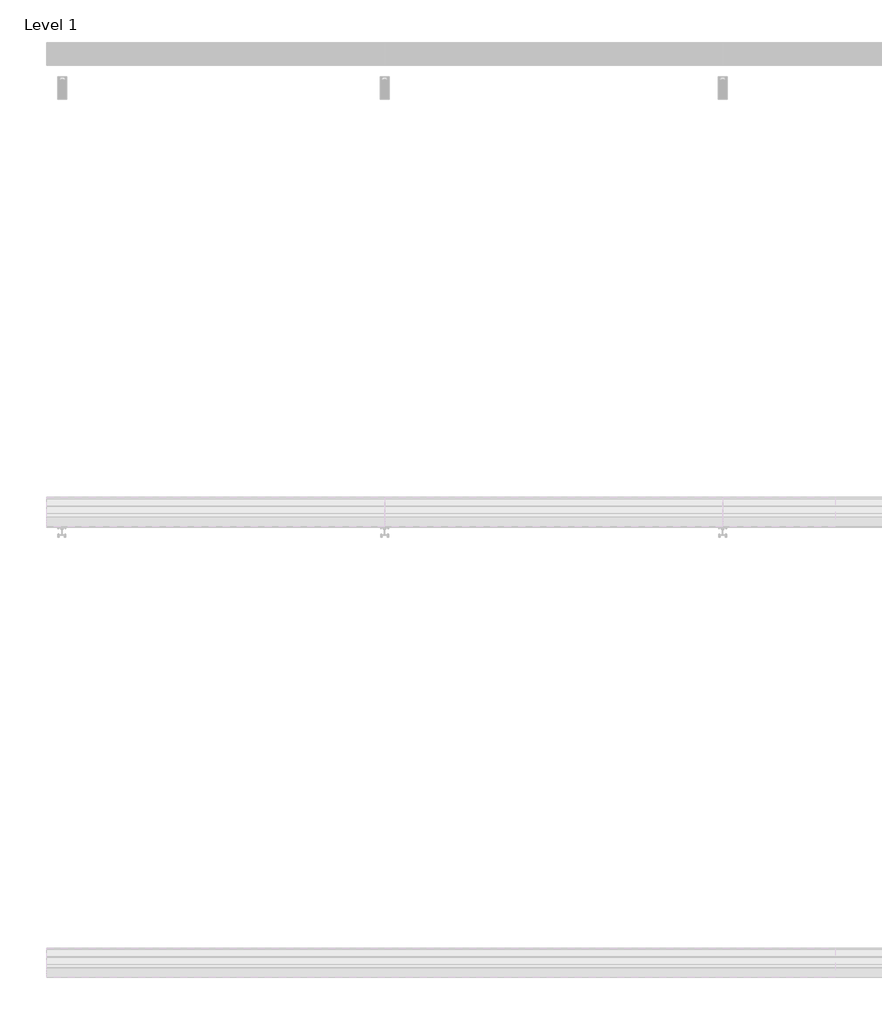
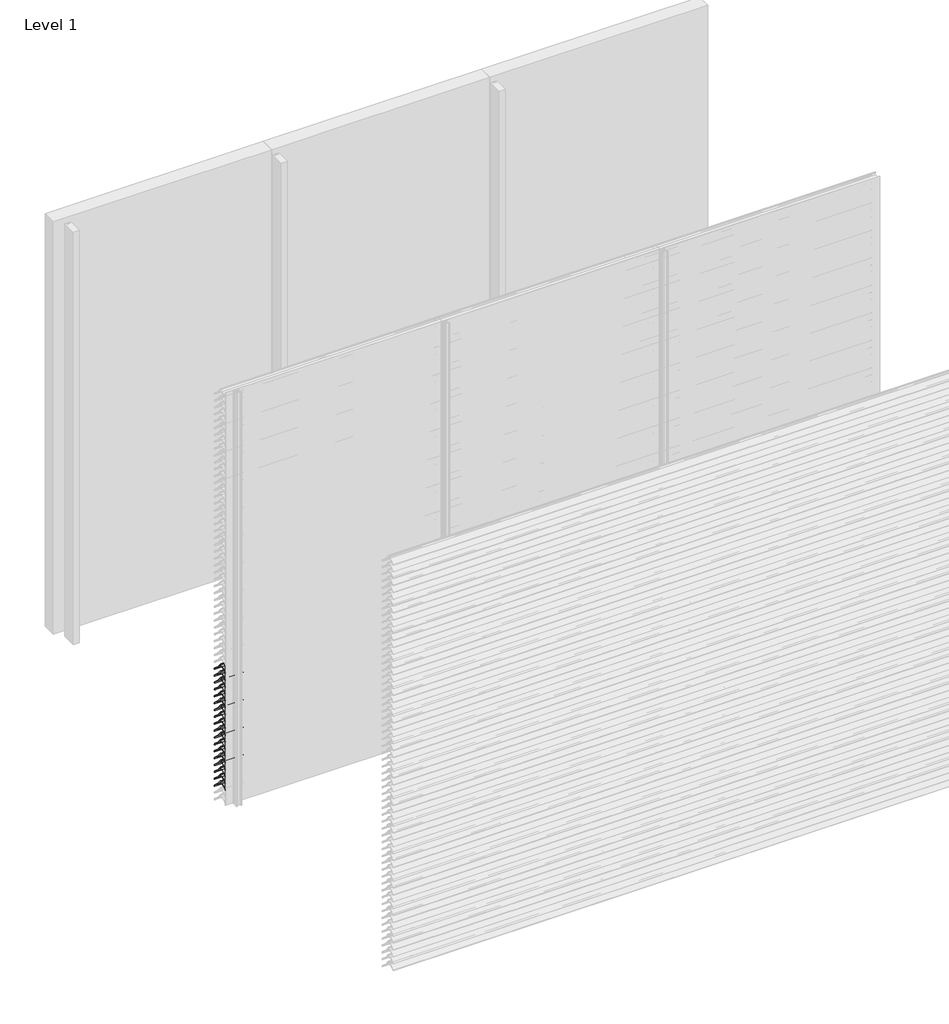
# One storey, part 43 of 173: 18 proxies.
"""IFC4 building model written with IfcOpenShell, lengths in millimetres."""

from ifc_helpers import new_model, si_unit, point, frame, frame_2d, origin, place, context, project, spatial, polyline, circle_curve, trimmed, segment, composite_curve, outline, extrude, element, save

model = new_model("IFC4")

# Units and contexts
model_context = context("Model", 3, world=origin())
ifc_project = project(units=[si_unit("LENGTHUNIT", "METRE", prefix="MILLI")], contexts=[model_context])

# Site, building, storey
site = spatial("IfcSite", under=ifc_project)
building = spatial("IfcBuilding", under=site)
storey = spatial("IfcBuildingStorey", under=building, Name="Level 1", Elevation=0.0)

# Proxies
placement = place(None, origin())
element("IfcBuildingElementProxy", 1, Name="Wall Sweeps", at=placement, inside=storey, context=model_context, shape_type="SweptSolid", body=[
    extrude(outline(composite_curve([segment(polyline([(-41998.0, 959.1474905), (-41998.0, 961.6227417)]), True, "CONTINUOUS"), segment(trimmed(circle_curve(frame_2d((-41951.2682172, 916.2200208)), 65.1557103), [point((-41998.0, 961.6227417))], [point((-41954.4014323, 981.3003524))], False, "CARTESIAN"), True, "CONTINUOUS"), segment(polyline([(-41954.4014323, 981.3003524), (-41934.8315836, 981.3003524)]), True, "CONTINUOUS"), segment(trimmed(circle_curve(frame_2d((-41732.7329489, 1128.5533172)), 250.0545817), [point((-41934.8315836, 981.3003524))], [point((-41941.4452143, 990.8344583))], False, "CARTESIAN"), True, "CONTINUOUS"), segment(trimmed(circle_curve(frame_2d((-41953.2981792, 985.1737835)), 13.1352966), [point((-41941.4452143, 990.8344583))], [point((-41953.8171475, 998.298824))], True, "CARTESIAN"), True, "CONTINUOUS"), segment(polyline([(-41953.8171475, 998.298824), (-41953.8171475, 1000.0)]), True, "CONTINUOUS"), segment(trimmed(circle_curve(frame_2d((-41953.2981792, 985.1737835)), 14.8352966), [point((-41953.8171475, 1000.0))], [point((-41939.9637661, 991.6760487))], False, "CARTESIAN"), True, "CONTINUOUS"), segment(trimmed(circle_curve(frame_2d((-41732.7329489, 1128.5533172)), 248.3545817), [point((-41939.9637661, 991.6760487))], [point((-41873.8787895, 924.2059416))], True, "CARTESIAN"), True, "CONTINUOUS"), segment(trimmed(circle_curve(frame_2d((-41883.8147537, 911.6649442)), 16.0), [point((-41873.8787895, 924.2059416))], [point((-41867.8648347, 910.4))], False, "CARTESIAN"), True, "CONTINUOUS"), segment(polyline([(-41867.8648347, 910.4), (-41869.6712069, 910.4)]), True, "CONTINUOUS"), segment(trimmed(circle_curve(frame_2d((-41883.8147537, 911.6649442)), 14.2), [point((-41869.6712069, 910.4))], [point((-41874.9518628, 922.7594998))], True, "CARTESIAN"), True, "CONTINUOUS"), segment(trimmed(circle_curve(frame_2d((-41732.7329489, 1128.5533172)), 250.1545817), [point((-41874.9518628, 922.7594998))], [point((-41933.7064024, 979.6003524))], False, "CARTESIAN"), True, "CONTINUOUS"), segment(polyline([(-41933.7064024, 979.6003524), (-41954.3602632, 979.6003524)]), True, "CONTINUOUS"), segment(trimmed(circle_curve(frame_2d((-41951.2682172, 916.2200208)), 63.4557103), [point((-41954.3602632, 979.6003524))], [point((-41998.0, 959.1474905))], True, "CARTESIAN"), True, "CONTINUOUS")], self_intersect=False)), frame((0.0, 0.0, 0.0), z_axis=(1.0, 0.0, 0.0), x_axis=(0.0, 1.0, 0.0)), (0.0, 0.0, 1.0), 1500.0),
])
element("IfcBuildingElementProxy", 2, Name="Wall Sweeps", at=placement, inside=storey, context=model_context, shape_type="SweptSolid", body=[
    extrude(outline(composite_curve([segment(polyline([(-41998.0, 909.1474905), (-41998.0, 911.6227417)]), True, "CONTINUOUS"), segment(trimmed(circle_curve(frame_2d((-41951.2682172, 866.2200208)), 65.1557103), [point((-41998.0, 911.6227417))], [point((-41954.4014323, 931.3003524))], False, "CARTESIAN"), True, "CONTINUOUS"), segment(polyline([(-41954.4014323, 931.3003524), (-41934.8315836, 931.3003524)]), True, "CONTINUOUS"), segment(trimmed(circle_curve(frame_2d((-41732.7329489, 1078.5533172)), 250.0545817), [point((-41934.8315836, 931.3003524))], [point((-41941.4452143, 940.8344583))], False, "CARTESIAN"), True, "CONTINUOUS"), segment(trimmed(circle_curve(frame_2d((-41953.2981792, 935.1737835)), 13.1352966), [point((-41941.4452143, 940.8344583))], [point((-41953.8171475, 948.298824))], True, "CARTESIAN"), True, "CONTINUOUS"), segment(polyline([(-41953.8171475, 948.298824), (-41953.8171475, 950.0)]), True, "CONTINUOUS"), segment(trimmed(circle_curve(frame_2d((-41953.2981792, 935.1737835)), 14.8352966), [point((-41953.8171475, 950.0))], [point((-41939.9637661, 941.6760487))], False, "CARTESIAN"), True, "CONTINUOUS"), segment(trimmed(circle_curve(frame_2d((-41732.7329489, 1078.5533172)), 248.3545817), [point((-41939.9637661, 941.6760487))], [point((-41873.8787895, 874.2059416))], True, "CARTESIAN"), True, "CONTINUOUS"), segment(trimmed(circle_curve(frame_2d((-41883.8147537, 861.6649442)), 16.0), [point((-41873.8787895, 874.2059416))], [point((-41867.8648347, 860.4))], False, "CARTESIAN"), True, "CONTINUOUS"), segment(polyline([(-41867.8648347, 860.4), (-41869.6712069, 860.4)]), True, "CONTINUOUS"), segment(trimmed(circle_curve(frame_2d((-41883.8147537, 861.6649442)), 14.2), [point((-41869.6712069, 860.4))], [point((-41874.9518628, 872.7594998))], True, "CARTESIAN"), True, "CONTINUOUS"), segment(trimmed(circle_curve(frame_2d((-41732.7329489, 1078.5533172)), 250.1545817), [point((-41874.9518628, 872.7594998))], [point((-41933.7064024, 929.6003524))], False, "CARTESIAN"), True, "CONTINUOUS"), segment(polyline([(-41933.7064024, 929.6003524), (-41954.3602632, 929.6003524)]), True, "CONTINUOUS"), segment(trimmed(circle_curve(frame_2d((-41951.2682172, 866.2200208)), 63.4557103), [point((-41954.3602632, 929.6003524))], [point((-41998.0, 909.1474905))], True, "CARTESIAN"), True, "CONTINUOUS")], self_intersect=False)), frame((0.0, 0.0, 0.0), z_axis=(1.0, 0.0, 0.0), x_axis=(0.0, 1.0, 0.0)), (0.0, 0.0, 1.0), 1500.0),
])
element("IfcBuildingElementProxy", 3, Name="Wall Sweeps", at=placement, inside=storey, context=model_context, shape_type="SweptSolid", body=[
    extrude(outline(composite_curve([segment(polyline([(-41998.0, 859.1474905), (-41998.0, 861.6227417)]), True, "CONTINUOUS"), segment(trimmed(circle_curve(frame_2d((-41951.2682172, 816.2200208)), 65.1557103), [point((-41998.0, 861.6227417))], [point((-41954.4014323, 881.3003524))], False, "CARTESIAN"), True, "CONTINUOUS"), segment(polyline([(-41954.4014323, 881.3003524), (-41934.8315836, 881.3003524)]), True, "CONTINUOUS"), segment(trimmed(circle_curve(frame_2d((-41732.7329489, 1028.5533172)), 250.0545817), [point((-41934.8315836, 881.3003524))], [point((-41941.4452143, 890.8344583))], False, "CARTESIAN"), True, "CONTINUOUS"), segment(trimmed(circle_curve(frame_2d((-41953.2981792, 885.1737835)), 13.1352966), [point((-41941.4452143, 890.8344583))], [point((-41953.8171475, 898.298824))], True, "CARTESIAN"), True, "CONTINUOUS"), segment(polyline([(-41953.8171475, 898.298824), (-41953.8171475, 900.0)]), True, "CONTINUOUS"), segment(trimmed(circle_curve(frame_2d((-41953.2981792, 885.1737835)), 14.8352966), [point((-41953.8171475, 900.0))], [point((-41939.9637661, 891.6760487))], False, "CARTESIAN"), True, "CONTINUOUS"), segment(trimmed(circle_curve(frame_2d((-41732.7329489, 1028.5533172)), 248.3545817), [point((-41939.9637661, 891.6760487))], [point((-41873.8787895, 824.2059416))], True, "CARTESIAN"), True, "CONTINUOUS"), segment(trimmed(circle_curve(frame_2d((-41883.8147537, 811.6649442)), 16.0), [point((-41873.8787895, 824.2059416))], [point((-41867.8648347, 810.4))], False, "CARTESIAN"), True, "CONTINUOUS"), segment(polyline([(-41867.8648347, 810.4), (-41869.6712069, 810.4)]), True, "CONTINUOUS"), segment(trimmed(circle_curve(frame_2d((-41883.8147537, 811.6649442)), 14.2), [point((-41869.6712069, 810.4))], [point((-41874.9518628, 822.7594998))], True, "CARTESIAN"), True, "CONTINUOUS"), segment(trimmed(circle_curve(frame_2d((-41732.7329489, 1028.5533172)), 250.1545817), [point((-41874.9518628, 822.7594998))], [point((-41933.7064024, 879.6003524))], False, "CARTESIAN"), True, "CONTINUOUS"), segment(polyline([(-41933.7064024, 879.6003524), (-41954.3602632, 879.6003524)]), True, "CONTINUOUS"), segment(trimmed(circle_curve(frame_2d((-41951.2682172, 816.2200208)), 63.4557103), [point((-41954.3602632, 879.6003524))], [point((-41998.0, 859.1474905))], True, "CARTESIAN"), True, "CONTINUOUS")], self_intersect=False)), frame((0.0, 0.0, 0.0), z_axis=(1.0, 0.0, 0.0), x_axis=(0.0, 1.0, 0.0)), (0.0, 0.0, 1.0), 1500.0),
])
element("IfcBuildingElementProxy", 4, Name="Wall Sweeps", at=placement, inside=storey, context=model_context, shape_type="SweptSolid", body=[
    extrude(outline(composite_curve([segment(polyline([(-41998.0, 809.1474905), (-41998.0, 811.6227417)]), True, "CONTINUOUS"), segment(trimmed(circle_curve(frame_2d((-41951.2682172, 766.2200208)), 65.1557103), [point((-41998.0, 811.6227417))], [point((-41954.4014323, 831.3003524))], False, "CARTESIAN"), True, "CONTINUOUS"), segment(polyline([(-41954.4014323, 831.3003524), (-41934.8315836, 831.3003524)]), True, "CONTINUOUS"), segment(trimmed(circle_curve(frame_2d((-41732.7329489, 978.5533172)), 250.0545817), [point((-41934.8315836, 831.3003524))], [point((-41941.4452143, 840.8344583))], False, "CARTESIAN"), True, "CONTINUOUS"), segment(trimmed(circle_curve(frame_2d((-41953.2981792, 835.1737835)), 13.1352966), [point((-41941.4452143, 840.8344583))], [point((-41953.8171475, 848.298824))], True, "CARTESIAN"), True, "CONTINUOUS"), segment(polyline([(-41953.8171475, 848.298824), (-41953.8171475, 850.0)]), True, "CONTINUOUS"), segment(trimmed(circle_curve(frame_2d((-41953.2981792, 835.1737835)), 14.8352966), [point((-41953.8171475, 850.0))], [point((-41939.9637661, 841.6760487))], False, "CARTESIAN"), True, "CONTINUOUS"), segment(trimmed(circle_curve(frame_2d((-41732.7329489, 978.5533172)), 248.3545817), [point((-41939.9637661, 841.6760487))], [point((-41873.8787895, 774.2059416))], True, "CARTESIAN"), True, "CONTINUOUS"), segment(trimmed(circle_curve(frame_2d((-41883.8147537, 761.6649442)), 16.0), [point((-41873.8787895, 774.2059416))], [point((-41867.8648347, 760.4))], False, "CARTESIAN"), True, "CONTINUOUS"), segment(polyline([(-41867.8648347, 760.4), (-41869.6712069, 760.4)]), True, "CONTINUOUS"), segment(trimmed(circle_curve(frame_2d((-41883.8147537, 761.6649442)), 14.2), [point((-41869.6712069, 760.4))], [point((-41874.9518628, 772.7594998))], True, "CARTESIAN"), True, "CONTINUOUS"), segment(trimmed(circle_curve(frame_2d((-41732.7329489, 978.5533172)), 250.1545817), [point((-41874.9518628, 772.7594998))], [point((-41933.7064024, 829.6003524))], False, "CARTESIAN"), True, "CONTINUOUS"), segment(polyline([(-41933.7064024, 829.6003524), (-41954.3602632, 829.6003524)]), True, "CONTINUOUS"), segment(trimmed(circle_curve(frame_2d((-41951.2682172, 766.2200208)), 63.4557103), [point((-41954.3602632, 829.6003524))], [point((-41998.0, 809.1474905))], True, "CARTESIAN"), True, "CONTINUOUS")], self_intersect=False)), frame((0.0, 0.0, 0.0), z_axis=(1.0, 0.0, 0.0), x_axis=(0.0, 1.0, 0.0)), (0.0, 0.0, 1.0), 1500.0),
])
element("IfcBuildingElementProxy", 5, Name="Wall Sweeps", at=placement, inside=storey, context=model_context, shape_type="SweptSolid", body=[
    extrude(outline(composite_curve([segment(polyline([(-41998.0, 759.1474905), (-41998.0, 761.6227417)]), True, "CONTINUOUS"), segment(trimmed(circle_curve(frame_2d((-41951.2682172, 716.2200208)), 65.1557103), [point((-41998.0, 761.6227417))], [point((-41954.4014323, 781.3003524))], False, "CARTESIAN"), True, "CONTINUOUS"), segment(polyline([(-41954.4014323, 781.3003524), (-41934.8315836, 781.3003524)]), True, "CONTINUOUS"), segment(trimmed(circle_curve(frame_2d((-41732.7329489, 928.5533172)), 250.0545817), [point((-41934.8315836, 781.3003524))], [point((-41941.4452143, 790.8344583))], False, "CARTESIAN"), True, "CONTINUOUS"), segment(trimmed(circle_curve(frame_2d((-41953.2981792, 785.1737835)), 13.1352966), [point((-41941.4452143, 790.8344583))], [point((-41953.8171475, 798.298824))], True, "CARTESIAN"), True, "CONTINUOUS"), segment(polyline([(-41953.8171475, 798.298824), (-41953.8171475, 800.0)]), True, "CONTINUOUS"), segment(trimmed(circle_curve(frame_2d((-41953.2981792, 785.1737835)), 14.8352966), [point((-41953.8171475, 800.0))], [point((-41939.9637661, 791.6760487))], False, "CARTESIAN"), True, "CONTINUOUS"), segment(trimmed(circle_curve(frame_2d((-41732.7329489, 928.5533172)), 248.3545817), [point((-41939.9637661, 791.6760487))], [point((-41873.8787895, 724.2059416))], True, "CARTESIAN"), True, "CONTINUOUS"), segment(trimmed(circle_curve(frame_2d((-41883.8147537, 711.6649442)), 16.0), [point((-41873.8787895, 724.2059416))], [point((-41867.8648347, 710.4))], False, "CARTESIAN"), True, "CONTINUOUS"), segment(polyline([(-41867.8648347, 710.4), (-41869.6712069, 710.4)]), True, "CONTINUOUS"), segment(trimmed(circle_curve(frame_2d((-41883.8147537, 711.6649442)), 14.2), [point((-41869.6712069, 710.4))], [point((-41874.9518628, 722.7594998))], True, "CARTESIAN"), True, "CONTINUOUS"), segment(trimmed(circle_curve(frame_2d((-41732.7329489, 928.5533172)), 250.1545817), [point((-41874.9518628, 722.7594998))], [point((-41933.7064024, 779.6003524))], False, "CARTESIAN"), True, "CONTINUOUS"), segment(polyline([(-41933.7064024, 779.6003524), (-41954.3602632, 779.6003524)]), True, "CONTINUOUS"), segment(trimmed(circle_curve(frame_2d((-41951.2682172, 716.2200208)), 63.4557103), [point((-41954.3602632, 779.6003524))], [point((-41998.0, 759.1474905))], True, "CARTESIAN"), True, "CONTINUOUS")], self_intersect=False)), frame((0.0, 0.0, 0.0), z_axis=(1.0, 0.0, 0.0), x_axis=(0.0, 1.0, 0.0)), (0.0, 0.0, 1.0), 1500.0),
])
element("IfcBuildingElementProxy", 6, Name="Wall Sweeps", at=placement, inside=storey, context=model_context, shape_type="SweptSolid", body=[
    extrude(outline(composite_curve([segment(polyline([(-41998.0, 709.1474905), (-41998.0, 711.6227417)]), True, "CONTINUOUS"), segment(trimmed(circle_curve(frame_2d((-41951.2682172, 666.2200208)), 65.1557103), [point((-41998.0, 711.6227417))], [point((-41954.4014323, 731.3003524))], False, "CARTESIAN"), True, "CONTINUOUS"), segment(polyline([(-41954.4014323, 731.3003524), (-41934.8315836, 731.3003524)]), True, "CONTINUOUS"), segment(trimmed(circle_curve(frame_2d((-41732.7329489, 878.5533172)), 250.0545817), [point((-41934.8315836, 731.3003524))], [point((-41941.4452143, 740.8344583))], False, "CARTESIAN"), True, "CONTINUOUS"), segment(trimmed(circle_curve(frame_2d((-41953.2981792, 735.1737835)), 13.1352966), [point((-41941.4452143, 740.8344583))], [point((-41953.8171475, 748.298824))], True, "CARTESIAN"), True, "CONTINUOUS"), segment(polyline([(-41953.8171475, 748.298824), (-41953.8171475, 750.0)]), True, "CONTINUOUS"), segment(trimmed(circle_curve(frame_2d((-41953.2981792, 735.1737835)), 14.8352966), [point((-41953.8171475, 750.0))], [point((-41939.9637661, 741.6760487))], False, "CARTESIAN"), True, "CONTINUOUS"), segment(trimmed(circle_curve(frame_2d((-41732.7329489, 878.5533172)), 248.3545817), [point((-41939.9637661, 741.6760487))], [point((-41873.8787895, 674.2059416))], True, "CARTESIAN"), True, "CONTINUOUS"), segment(trimmed(circle_curve(frame_2d((-41883.8147537, 661.6649442)), 16.0), [point((-41873.8787895, 674.2059416))], [point((-41867.8648347, 660.4))], False, "CARTESIAN"), True, "CONTINUOUS"), segment(polyline([(-41867.8648347, 660.4), (-41869.6712069, 660.4)]), True, "CONTINUOUS"), segment(trimmed(circle_curve(frame_2d((-41883.8147537, 661.6649442)), 14.2), [point((-41869.6712069, 660.4))], [point((-41874.9518628, 672.7594998))], True, "CARTESIAN"), True, "CONTINUOUS"), segment(trimmed(circle_curve(frame_2d((-41732.7329489, 878.5533172)), 250.1545817), [point((-41874.9518628, 672.7594998))], [point((-41933.7064024, 729.6003524))], False, "CARTESIAN"), True, "CONTINUOUS"), segment(polyline([(-41933.7064024, 729.6003524), (-41954.3602632, 729.6003524)]), True, "CONTINUOUS"), segment(trimmed(circle_curve(frame_2d((-41951.2682172, 666.2200208)), 63.4557103), [point((-41954.3602632, 729.6003524))], [point((-41998.0, 709.1474905))], True, "CARTESIAN"), True, "CONTINUOUS")], self_intersect=False)), frame((0.0, 0.0, 0.0), z_axis=(1.0, 0.0, 0.0), x_axis=(0.0, 1.0, 0.0)), (0.0, 0.0, 1.0), 1500.0),
])
element("IfcBuildingElementProxy", 7, Name="Wall Sweeps", at=placement, inside=storey, context=model_context, shape_type="SweptSolid", body=[
    extrude(outline(composite_curve([segment(polyline([(-41998.0, 659.1474905), (-41998.0, 661.6227417)]), True, "CONTINUOUS"), segment(trimmed(circle_curve(frame_2d((-41951.2682172, 616.2200208)), 65.1557103), [point((-41998.0, 661.6227417))], [point((-41954.4014323, 681.3003524))], False, "CARTESIAN"), True, "CONTINUOUS"), segment(polyline([(-41954.4014323, 681.3003524), (-41934.8315836, 681.3003524)]), True, "CONTINUOUS"), segment(trimmed(circle_curve(frame_2d((-41732.7329489, 828.5533172)), 250.0545817), [point((-41934.8315836, 681.3003524))], [point((-41941.4452143, 690.8344583))], False, "CARTESIAN"), True, "CONTINUOUS"), segment(trimmed(circle_curve(frame_2d((-41953.2981792, 685.1737835)), 13.1352966), [point((-41941.4452143, 690.8344583))], [point((-41953.8171475, 698.298824))], True, "CARTESIAN"), True, "CONTINUOUS"), segment(polyline([(-41953.8171475, 698.298824), (-41953.8171475, 700.0)]), True, "CONTINUOUS"), segment(trimmed(circle_curve(frame_2d((-41953.2981792, 685.1737835)), 14.8352966), [point((-41953.8171475, 700.0))], [point((-41939.9637661, 691.6760487))], False, "CARTESIAN"), True, "CONTINUOUS"), segment(trimmed(circle_curve(frame_2d((-41732.7329489, 828.5533172)), 248.3545817), [point((-41939.9637661, 691.6760487))], [point((-41873.8787895, 624.2059416))], True, "CARTESIAN"), True, "CONTINUOUS"), segment(trimmed(circle_curve(frame_2d((-41883.8147537, 611.6649442)), 16.0), [point((-41873.8787895, 624.2059416))], [point((-41867.8648347, 610.4))], False, "CARTESIAN"), True, "CONTINUOUS"), segment(polyline([(-41867.8648347, 610.4), (-41869.6712069, 610.4)]), True, "CONTINUOUS"), segment(trimmed(circle_curve(frame_2d((-41883.8147537, 611.6649442)), 14.2), [point((-41869.6712069, 610.4))], [point((-41874.9518628, 622.7594998))], True, "CARTESIAN"), True, "CONTINUOUS"), segment(trimmed(circle_curve(frame_2d((-41732.7329489, 828.5533172)), 250.1545817), [point((-41874.9518628, 622.7594998))], [point((-41933.7064024, 679.6003524))], False, "CARTESIAN"), True, "CONTINUOUS"), segment(polyline([(-41933.7064024, 679.6003524), (-41954.3602632, 679.6003524)]), True, "CONTINUOUS"), segment(trimmed(circle_curve(frame_2d((-41951.2682172, 616.2200208)), 63.4557103), [point((-41954.3602632, 679.6003524))], [point((-41998.0, 659.1474905))], True, "CARTESIAN"), True, "CONTINUOUS")], self_intersect=False)), frame((0.0, 0.0, 0.0), z_axis=(1.0, 0.0, 0.0), x_axis=(0.0, 1.0, 0.0)), (0.0, 0.0, 1.0), 1500.0),
])
element("IfcBuildingElementProxy", 8, Name="Wall Sweeps", at=placement, inside=storey, context=model_context, shape_type="SweptSolid", body=[
    extrude(outline(composite_curve([segment(polyline([(-41998.0, 609.1474905), (-41998.0, 611.6227417)]), True, "CONTINUOUS"), segment(trimmed(circle_curve(frame_2d((-41951.2682172, 566.2200208)), 65.1557103), [point((-41998.0, 611.6227417))], [point((-41954.4014323, 631.3003524))], False, "CARTESIAN"), True, "CONTINUOUS"), segment(polyline([(-41954.4014323, 631.3003524), (-41934.8315836, 631.3003524)]), True, "CONTINUOUS"), segment(trimmed(circle_curve(frame_2d((-41732.7329489, 778.5533172)), 250.0545817), [point((-41934.8315836, 631.3003524))], [point((-41941.4452143, 640.8344583))], False, "CARTESIAN"), True, "CONTINUOUS"), segment(trimmed(circle_curve(frame_2d((-41953.2981792, 635.1737835)), 13.1352966), [point((-41941.4452143, 640.8344583))], [point((-41953.8171475, 648.298824))], True, "CARTESIAN"), True, "CONTINUOUS"), segment(polyline([(-41953.8171475, 648.298824), (-41953.8171475, 650.0)]), True, "CONTINUOUS"), segment(trimmed(circle_curve(frame_2d((-41953.2981792, 635.1737835)), 14.8352966), [point((-41953.8171475, 650.0))], [point((-41939.9637661, 641.6760487))], False, "CARTESIAN"), True, "CONTINUOUS"), segment(trimmed(circle_curve(frame_2d((-41732.7329489, 778.5533172)), 248.3545817), [point((-41939.9637661, 641.6760487))], [point((-41873.8787895, 574.2059416))], True, "CARTESIAN"), True, "CONTINUOUS"), segment(trimmed(circle_curve(frame_2d((-41883.8147537, 561.6649442)), 16.0), [point((-41873.8787895, 574.2059416))], [point((-41867.8648347, 560.4))], False, "CARTESIAN"), True, "CONTINUOUS"), segment(polyline([(-41867.8648347, 560.4), (-41869.6712069, 560.4)]), True, "CONTINUOUS"), segment(trimmed(circle_curve(frame_2d((-41883.8147537, 561.6649442)), 14.2), [point((-41869.6712069, 560.4))], [point((-41874.9518628, 572.7594998))], True, "CARTESIAN"), True, "CONTINUOUS"), segment(trimmed(circle_curve(frame_2d((-41732.7329489, 778.5533172)), 250.1545817), [point((-41874.9518628, 572.7594998))], [point((-41933.7064024, 629.6003524))], False, "CARTESIAN"), True, "CONTINUOUS"), segment(polyline([(-41933.7064024, 629.6003524), (-41954.3602632, 629.6003524)]), True, "CONTINUOUS"), segment(trimmed(circle_curve(frame_2d((-41951.2682172, 566.2200208)), 63.4557103), [point((-41954.3602632, 629.6003524))], [point((-41998.0, 609.1474905))], True, "CARTESIAN"), True, "CONTINUOUS")], self_intersect=False)), frame((0.0, 0.0, 0.0), z_axis=(1.0, 0.0, 0.0), x_axis=(0.0, 1.0, 0.0)), (0.0, 0.0, 1.0), 1500.0),
])
element("IfcBuildingElementProxy", 9, Name="Wall Sweeps", at=placement, inside=storey, context=model_context, shape_type="SweptSolid", body=[
    extrude(outline(composite_curve([segment(polyline([(-41998.0, 559.1474905), (-41998.0, 561.6227417)]), True, "CONTINUOUS"), segment(trimmed(circle_curve(frame_2d((-41951.2682172, 516.2200208)), 65.1557103), [point((-41998.0, 561.6227417))], [point((-41954.4014323, 581.3003524))], False, "CARTESIAN"), True, "CONTINUOUS"), segment(polyline([(-41954.4014323, 581.3003524), (-41934.8315836, 581.3003524)]), True, "CONTINUOUS"), segment(trimmed(circle_curve(frame_2d((-41732.7329489, 728.5533172)), 250.0545817), [point((-41934.8315836, 581.3003524))], [point((-41941.4452143, 590.8344583))], False, "CARTESIAN"), True, "CONTINUOUS"), segment(trimmed(circle_curve(frame_2d((-41953.2981792, 585.1737835)), 13.1352966), [point((-41941.4452143, 590.8344583))], [point((-41953.8171475, 598.298824))], True, "CARTESIAN"), True, "CONTINUOUS"), segment(polyline([(-41953.8171475, 598.298824), (-41953.8171475, 600.0)]), True, "CONTINUOUS"), segment(trimmed(circle_curve(frame_2d((-41953.2981792, 585.1737835)), 14.8352966), [point((-41953.8171475, 600.0))], [point((-41939.9637661, 591.6760487))], False, "CARTESIAN"), True, "CONTINUOUS"), segment(trimmed(circle_curve(frame_2d((-41732.7329489, 728.5533172)), 248.3545817), [point((-41939.9637661, 591.6760487))], [point((-41873.8787895, 524.2059416))], True, "CARTESIAN"), True, "CONTINUOUS"), segment(trimmed(circle_curve(frame_2d((-41883.8147537, 511.6649442)), 16.0), [point((-41873.8787895, 524.2059416))], [point((-41867.8648347, 510.4))], False, "CARTESIAN"), True, "CONTINUOUS"), segment(polyline([(-41867.8648347, 510.4), (-41869.6712069, 510.4)]), True, "CONTINUOUS"), segment(trimmed(circle_curve(frame_2d((-41883.8147537, 511.6649442)), 14.2), [point((-41869.6712069, 510.4))], [point((-41874.9518628, 522.7594998))], True, "CARTESIAN"), True, "CONTINUOUS"), segment(trimmed(circle_curve(frame_2d((-41732.7329489, 728.5533172)), 250.1545817), [point((-41874.9518628, 522.7594998))], [point((-41933.7064024, 579.6003524))], False, "CARTESIAN"), True, "CONTINUOUS"), segment(polyline([(-41933.7064024, 579.6003524), (-41954.3602632, 579.6003524)]), True, "CONTINUOUS"), segment(trimmed(circle_curve(frame_2d((-41951.2682172, 516.2200208)), 63.4557103), [point((-41954.3602632, 579.6003524))], [point((-41998.0, 559.1474905))], True, "CARTESIAN"), True, "CONTINUOUS")], self_intersect=False)), frame((0.0, 0.0, 0.0), z_axis=(1.0, 0.0, 0.0), x_axis=(0.0, 1.0, 0.0)), (0.0, 0.0, 1.0), 1500.0),
])
element("IfcBuildingElementProxy", 10, Name="Wall Sweeps", at=placement, inside=storey, context=model_context, shape_type="SweptSolid", body=[
    extrude(outline(composite_curve([segment(polyline([(-41998.0, 509.1474905), (-41998.0, 511.6227417)]), True, "CONTINUOUS"), segment(trimmed(circle_curve(frame_2d((-41951.2682172, 466.2200208)), 65.1557103), [point((-41998.0, 511.6227417))], [point((-41954.4014323, 531.3003524))], False, "CARTESIAN"), True, "CONTINUOUS"), segment(polyline([(-41954.4014323, 531.3003524), (-41934.8315836, 531.3003524)]), True, "CONTINUOUS"), segment(trimmed(circle_curve(frame_2d((-41732.7329489, 678.5533172)), 250.0545817), [point((-41934.8315836, 531.3003524))], [point((-41941.4452143, 540.8344583))], False, "CARTESIAN"), True, "CONTINUOUS"), segment(trimmed(circle_curve(frame_2d((-41953.2981792, 535.1737835)), 13.1352966), [point((-41941.4452143, 540.8344583))], [point((-41953.8171475, 548.298824))], True, "CARTESIAN"), True, "CONTINUOUS"), segment(polyline([(-41953.8171475, 548.298824), (-41953.8171475, 550.0)]), True, "CONTINUOUS"), segment(trimmed(circle_curve(frame_2d((-41953.2981792, 535.1737835)), 14.8352966), [point((-41953.8171475, 550.0))], [point((-41939.9637661, 541.6760487))], False, "CARTESIAN"), True, "CONTINUOUS"), segment(trimmed(circle_curve(frame_2d((-41732.7329489, 678.5533172)), 248.3545817), [point((-41939.9637661, 541.6760487))], [point((-41873.8787895, 474.2059416))], True, "CARTESIAN"), True, "CONTINUOUS"), segment(trimmed(circle_curve(frame_2d((-41883.8147537, 461.6649442)), 16.0), [point((-41873.8787895, 474.2059416))], [point((-41867.8648347, 460.4))], False, "CARTESIAN"), True, "CONTINUOUS"), segment(polyline([(-41867.8648347, 460.4), (-41869.6712069, 460.4)]), True, "CONTINUOUS"), segment(trimmed(circle_curve(frame_2d((-41883.8147537, 461.6649442)), 14.2), [point((-41869.6712069, 460.4))], [point((-41874.9518628, 472.7594998))], True, "CARTESIAN"), True, "CONTINUOUS"), segment(trimmed(circle_curve(frame_2d((-41732.7329489, 678.5533172)), 250.1545817), [point((-41874.9518628, 472.7594998))], [point((-41933.7064024, 529.6003524))], False, "CARTESIAN"), True, "CONTINUOUS"), segment(polyline([(-41933.7064024, 529.6003524), (-41954.3602632, 529.6003524)]), True, "CONTINUOUS"), segment(trimmed(circle_curve(frame_2d((-41951.2682172, 466.2200208)), 63.4557103), [point((-41954.3602632, 529.6003524))], [point((-41998.0, 509.1474905))], True, "CARTESIAN"), True, "CONTINUOUS")], self_intersect=False)), frame((0.0, 0.0, 0.0), z_axis=(1.0, 0.0, 0.0), x_axis=(0.0, 1.0, 0.0)), (0.0, 0.0, 1.0), 1500.0),
])
element("IfcBuildingElementProxy", 11, Name="Wall Sweeps", at=placement, inside=storey, context=model_context, shape_type="SweptSolid", body=[
    extrude(outline(composite_curve([segment(polyline([(-41998.0, 459.1474905), (-41998.0, 461.6227417)]), True, "CONTINUOUS"), segment(trimmed(circle_curve(frame_2d((-41951.2682172, 416.2200208)), 65.1557103), [point((-41998.0, 461.6227417))], [point((-41954.4014323, 481.3003524))], False, "CARTESIAN"), True, "CONTINUOUS"), segment(polyline([(-41954.4014323, 481.3003524), (-41934.8315836, 481.3003524)]), True, "CONTINUOUS"), segment(trimmed(circle_curve(frame_2d((-41732.7329489, 628.5533172)), 250.0545817), [point((-41934.8315836, 481.3003524))], [point((-41941.4452143, 490.8344583))], False, "CARTESIAN"), True, "CONTINUOUS"), segment(trimmed(circle_curve(frame_2d((-41953.2981792, 485.1737835)), 13.1352966), [point((-41941.4452143, 490.8344583))], [point((-41953.8171475, 498.298824))], True, "CARTESIAN"), True, "CONTINUOUS"), segment(polyline([(-41953.8171475, 498.298824), (-41953.8171475, 500.0)]), True, "CONTINUOUS"), segment(trimmed(circle_curve(frame_2d((-41953.2981792, 485.1737835)), 14.8352966), [point((-41953.8171475, 500.0))], [point((-41939.9637661, 491.6760487))], False, "CARTESIAN"), True, "CONTINUOUS"), segment(trimmed(circle_curve(frame_2d((-41732.7329489, 628.5533172)), 248.3545817), [point((-41939.9637661, 491.6760487))], [point((-41873.8787895, 424.2059416))], True, "CARTESIAN"), True, "CONTINUOUS"), segment(trimmed(circle_curve(frame_2d((-41883.8147537, 411.6649442)), 16.0), [point((-41873.8787895, 424.2059416))], [point((-41867.8648347, 410.4))], False, "CARTESIAN"), True, "CONTINUOUS"), segment(polyline([(-41867.8648347, 410.4), (-41869.6712069, 410.4)]), True, "CONTINUOUS"), segment(trimmed(circle_curve(frame_2d((-41883.8147537, 411.6649442)), 14.2), [point((-41869.6712069, 410.4))], [point((-41874.9518628, 422.7594998))], True, "CARTESIAN"), True, "CONTINUOUS"), segment(trimmed(circle_curve(frame_2d((-41732.7329489, 628.5533172)), 250.1545817), [point((-41874.9518628, 422.7594998))], [point((-41933.7064024, 479.6003524))], False, "CARTESIAN"), True, "CONTINUOUS"), segment(polyline([(-41933.7064024, 479.6003524), (-41954.3602632, 479.6003524)]), True, "CONTINUOUS"), segment(trimmed(circle_curve(frame_2d((-41951.2682172, 416.2200208)), 63.4557103), [point((-41954.3602632, 479.6003524))], [point((-41998.0, 459.1474905))], True, "CARTESIAN"), True, "CONTINUOUS")], self_intersect=False)), frame((0.0, 0.0, 0.0), z_axis=(1.0, 0.0, 0.0), x_axis=(0.0, 1.0, 0.0)), (0.0, 0.0, 1.0), 1500.0),
])
element("IfcBuildingElementProxy", 12, Name="Wall Sweeps", at=placement, inside=storey, context=model_context, shape_type="SweptSolid", body=[
    extrude(outline(composite_curve([segment(polyline([(-41998.0, 409.1474905), (-41998.0, 411.6227417)]), True, "CONTINUOUS"), segment(trimmed(circle_curve(frame_2d((-41951.2682172, 366.2200208)), 65.1557103), [point((-41998.0, 411.6227417))], [point((-41954.4014323, 431.3003524))], False, "CARTESIAN"), True, "CONTINUOUS"), segment(polyline([(-41954.4014323, 431.3003524), (-41934.8315836, 431.3003524)]), True, "CONTINUOUS"), segment(trimmed(circle_curve(frame_2d((-41732.7329489, 578.5533172)), 250.0545817), [point((-41934.8315836, 431.3003524))], [point((-41941.4452143, 440.8344583))], False, "CARTESIAN"), True, "CONTINUOUS"), segment(trimmed(circle_curve(frame_2d((-41953.2981792, 435.1737835)), 13.1352966), [point((-41941.4452143, 440.8344583))], [point((-41953.8171475, 448.298824))], True, "CARTESIAN"), True, "CONTINUOUS"), segment(polyline([(-41953.8171475, 448.298824), (-41953.8171475, 450.0)]), True, "CONTINUOUS"), segment(trimmed(circle_curve(frame_2d((-41953.2981792, 435.1737835)), 14.8352966), [point((-41953.8171475, 450.0))], [point((-41939.9637661, 441.6760487))], False, "CARTESIAN"), True, "CONTINUOUS"), segment(trimmed(circle_curve(frame_2d((-41732.7329489, 578.5533172)), 248.3545817), [point((-41939.9637661, 441.6760487))], [point((-41873.8787895, 374.2059416))], True, "CARTESIAN"), True, "CONTINUOUS"), segment(trimmed(circle_curve(frame_2d((-41883.8147537, 361.6649442)), 16.0), [point((-41873.8787895, 374.2059416))], [point((-41867.8648347, 360.4))], False, "CARTESIAN"), True, "CONTINUOUS"), segment(polyline([(-41867.8648347, 360.4), (-41869.6712069, 360.4)]), True, "CONTINUOUS"), segment(trimmed(circle_curve(frame_2d((-41883.8147537, 361.6649442)), 14.2), [point((-41869.6712069, 360.4))], [point((-41874.9518628, 372.7594998))], True, "CARTESIAN"), True, "CONTINUOUS"), segment(trimmed(circle_curve(frame_2d((-41732.7329489, 578.5533172)), 250.1545817), [point((-41874.9518628, 372.7594998))], [point((-41933.7064024, 429.6003524))], False, "CARTESIAN"), True, "CONTINUOUS"), segment(polyline([(-41933.7064024, 429.6003524), (-41954.3602632, 429.6003524)]), True, "CONTINUOUS"), segment(trimmed(circle_curve(frame_2d((-41951.2682172, 366.2200208)), 63.4557103), [point((-41954.3602632, 429.6003524))], [point((-41998.0, 409.1474905))], True, "CARTESIAN"), True, "CONTINUOUS")], self_intersect=False)), frame((0.0, 0.0, 0.0), z_axis=(1.0, 0.0, 0.0), x_axis=(0.0, 1.0, 0.0)), (0.0, 0.0, 1.0), 1500.0),
])
element("IfcBuildingElementProxy", 13, Name="Wall Sweeps", at=placement, inside=storey, context=model_context, shape_type="SweptSolid", body=[
    extrude(outline(composite_curve([segment(polyline([(-41998.0, 359.1474905), (-41998.0, 361.6227417)]), True, "CONTINUOUS"), segment(trimmed(circle_curve(frame_2d((-41951.2682172, 316.2200208)), 65.1557103), [point((-41998.0, 361.6227417))], [point((-41954.4014323, 381.3003524))], False, "CARTESIAN"), True, "CONTINUOUS"), segment(polyline([(-41954.4014323, 381.3003524), (-41934.8315836, 381.3003524)]), True, "CONTINUOUS"), segment(trimmed(circle_curve(frame_2d((-41732.7329489, 528.5533172)), 250.0545817), [point((-41934.8315836, 381.3003524))], [point((-41941.4452143, 390.8344583))], False, "CARTESIAN"), True, "CONTINUOUS"), segment(trimmed(circle_curve(frame_2d((-41953.2981792, 385.1737835)), 13.1352966), [point((-41941.4452143, 390.8344583))], [point((-41953.8171475, 398.298824))], True, "CARTESIAN"), True, "CONTINUOUS"), segment(polyline([(-41953.8171475, 398.298824), (-41953.8171475, 400.0)]), True, "CONTINUOUS"), segment(trimmed(circle_curve(frame_2d((-41953.2981792, 385.1737835)), 14.8352966), [point((-41953.8171475, 400.0))], [point((-41939.9637661, 391.6760487))], False, "CARTESIAN"), True, "CONTINUOUS"), segment(trimmed(circle_curve(frame_2d((-41732.7329489, 528.5533172)), 248.3545817), [point((-41939.9637661, 391.6760487))], [point((-41873.8787895, 324.2059416))], True, "CARTESIAN"), True, "CONTINUOUS"), segment(trimmed(circle_curve(frame_2d((-41883.8147537, 311.6649442)), 16.0), [point((-41873.8787895, 324.2059416))], [point((-41867.8648347, 310.4))], False, "CARTESIAN"), True, "CONTINUOUS"), segment(polyline([(-41867.8648347, 310.4), (-41869.6712069, 310.4)]), True, "CONTINUOUS"), segment(trimmed(circle_curve(frame_2d((-41883.8147537, 311.6649442)), 14.2), [point((-41869.6712069, 310.4))], [point((-41874.9518628, 322.7594998))], True, "CARTESIAN"), True, "CONTINUOUS"), segment(trimmed(circle_curve(frame_2d((-41732.7329489, 528.5533172)), 250.1545817), [point((-41874.9518628, 322.7594998))], [point((-41933.7064024, 379.6003524))], False, "CARTESIAN"), True, "CONTINUOUS"), segment(polyline([(-41933.7064024, 379.6003524), (-41954.3602632, 379.6003524)]), True, "CONTINUOUS"), segment(trimmed(circle_curve(frame_2d((-41951.2682172, 316.2200208)), 63.4557103), [point((-41954.3602632, 379.6003524))], [point((-41998.0, 359.1474905))], True, "CARTESIAN"), True, "CONTINUOUS")], self_intersect=False)), frame((0.0, 0.0, 0.0), z_axis=(1.0, 0.0, 0.0), x_axis=(0.0, 1.0, 0.0)), (0.0, 0.0, 1.0), 1500.0),
])
element("IfcBuildingElementProxy", 14, Name="Wall Sweeps", at=placement, inside=storey, context=model_context, shape_type="SweptSolid", body=[
    extrude(outline(composite_curve([segment(polyline([(-41998.0, 309.1474905), (-41998.0, 311.6227417)]), True, "CONTINUOUS"), segment(trimmed(circle_curve(frame_2d((-41951.2682172, 266.2200208)), 65.1557103), [point((-41998.0, 311.6227417))], [point((-41954.4014323, 331.3003524))], False, "CARTESIAN"), True, "CONTINUOUS"), segment(polyline([(-41954.4014323, 331.3003524), (-41934.8315836, 331.3003524)]), True, "CONTINUOUS"), segment(trimmed(circle_curve(frame_2d((-41732.7329489, 478.5533172)), 250.0545817), [point((-41934.8315836, 331.3003524))], [point((-41941.4452143, 340.8344583))], False, "CARTESIAN"), True, "CONTINUOUS"), segment(trimmed(circle_curve(frame_2d((-41953.2981792, 335.1737835)), 13.1352966), [point((-41941.4452143, 340.8344583))], [point((-41953.8171475, 348.298824))], True, "CARTESIAN"), True, "CONTINUOUS"), segment(polyline([(-41953.8171475, 348.298824), (-41953.8171475, 350.0)]), True, "CONTINUOUS"), segment(trimmed(circle_curve(frame_2d((-41953.2981792, 335.1737835)), 14.8352966), [point((-41953.8171475, 350.0))], [point((-41939.9637661, 341.6760487))], False, "CARTESIAN"), True, "CONTINUOUS"), segment(trimmed(circle_curve(frame_2d((-41732.7329489, 478.5533172)), 248.3545817), [point((-41939.9637661, 341.6760487))], [point((-41873.8787895, 274.2059416))], True, "CARTESIAN"), True, "CONTINUOUS"), segment(trimmed(circle_curve(frame_2d((-41883.8147537, 261.6649442)), 16.0), [point((-41873.8787895, 274.2059416))], [point((-41867.8648347, 260.4))], False, "CARTESIAN"), True, "CONTINUOUS"), segment(polyline([(-41867.8648347, 260.4), (-41869.6712069, 260.4)]), True, "CONTINUOUS"), segment(trimmed(circle_curve(frame_2d((-41883.8147537, 261.6649442)), 14.2), [point((-41869.6712069, 260.4))], [point((-41874.9518628, 272.7594998))], True, "CARTESIAN"), True, "CONTINUOUS"), segment(trimmed(circle_curve(frame_2d((-41732.7329489, 478.5533172)), 250.1545817), [point((-41874.9518628, 272.7594998))], [point((-41933.7064024, 329.6003524))], False, "CARTESIAN"), True, "CONTINUOUS"), segment(polyline([(-41933.7064024, 329.6003524), (-41954.3602632, 329.6003524)]), True, "CONTINUOUS"), segment(trimmed(circle_curve(frame_2d((-41951.2682172, 266.2200208)), 63.4557103), [point((-41954.3602632, 329.6003524))], [point((-41998.0, 309.1474905))], True, "CARTESIAN"), True, "CONTINUOUS")], self_intersect=False)), frame((0.0, 0.0, 0.0), z_axis=(1.0, 0.0, 0.0), x_axis=(0.0, 1.0, 0.0)), (0.0, 0.0, 1.0), 1500.0),
])
element("IfcBuildingElementProxy", 15, Name="Wall Sweeps", at=placement, inside=storey, context=model_context, shape_type="SweptSolid", body=[
    extrude(outline(composite_curve([segment(polyline([(-41998.0, 259.1474905), (-41998.0, 261.6227417)]), True, "CONTINUOUS"), segment(trimmed(circle_curve(frame_2d((-41951.2682172, 216.2200208)), 65.1557103), [point((-41998.0, 261.6227417))], [point((-41954.4014323, 281.3003524))], False, "CARTESIAN"), True, "CONTINUOUS"), segment(polyline([(-41954.4014323, 281.3003524), (-41934.8315836, 281.3003524)]), True, "CONTINUOUS"), segment(trimmed(circle_curve(frame_2d((-41732.7329489, 428.5533172)), 250.0545817), [point((-41934.8315836, 281.3003524))], [point((-41941.4452143, 290.8344583))], False, "CARTESIAN"), True, "CONTINUOUS"), segment(trimmed(circle_curve(frame_2d((-41953.2981792, 285.1737835)), 13.1352966), [point((-41941.4452143, 290.8344583))], [point((-41953.8171475, 298.298824))], True, "CARTESIAN"), True, "CONTINUOUS"), segment(polyline([(-41953.8171475, 298.298824), (-41953.8171475, 300.0)]), True, "CONTINUOUS"), segment(trimmed(circle_curve(frame_2d((-41953.2981792, 285.1737835)), 14.8352966), [point((-41953.8171475, 300.0))], [point((-41939.9637661, 291.6760487))], False, "CARTESIAN"), True, "CONTINUOUS"), segment(trimmed(circle_curve(frame_2d((-41732.7329489, 428.5533172)), 248.3545817), [point((-41939.9637661, 291.6760487))], [point((-41873.8787895, 224.2059416))], True, "CARTESIAN"), True, "CONTINUOUS"), segment(trimmed(circle_curve(frame_2d((-41883.8147537, 211.6649442)), 16.0), [point((-41873.8787895, 224.2059416))], [point((-41867.8648347, 210.4))], False, "CARTESIAN"), True, "CONTINUOUS"), segment(polyline([(-41867.8648347, 210.4), (-41869.6712069, 210.4)]), True, "CONTINUOUS"), segment(trimmed(circle_curve(frame_2d((-41883.8147537, 211.6649442)), 14.2), [point((-41869.6712069, 210.4))], [point((-41874.9518628, 222.7594998))], True, "CARTESIAN"), True, "CONTINUOUS"), segment(trimmed(circle_curve(frame_2d((-41732.7329489, 428.5533172)), 250.1545817), [point((-41874.9518628, 222.7594998))], [point((-41933.7064024, 279.6003524))], False, "CARTESIAN"), True, "CONTINUOUS"), segment(polyline([(-41933.7064024, 279.6003524), (-41954.3602632, 279.6003524)]), True, "CONTINUOUS"), segment(trimmed(circle_curve(frame_2d((-41951.2682172, 216.2200208)), 63.4557103), [point((-41954.3602632, 279.6003524))], [point((-41998.0, 259.1474905))], True, "CARTESIAN"), True, "CONTINUOUS")], self_intersect=False)), frame((0.0, 0.0, 0.0), z_axis=(1.0, 0.0, 0.0), x_axis=(0.0, 1.0, 0.0)), (0.0, 0.0, 1.0), 1500.0),
])
element("IfcBuildingElementProxy", 16, Name="Wall Sweeps", at=placement, inside=storey, context=model_context, shape_type="SweptSolid", body=[
    extrude(outline(composite_curve([segment(polyline([(-41998.0, 209.1474905), (-41998.0, 211.6227417)]), True, "CONTINUOUS"), segment(trimmed(circle_curve(frame_2d((-41951.2682172, 166.2200208)), 65.1557103), [point((-41998.0, 211.6227417))], [point((-41954.4014323, 231.3003524))], False, "CARTESIAN"), True, "CONTINUOUS"), segment(polyline([(-41954.4014323, 231.3003524), (-41934.8315836, 231.3003524)]), True, "CONTINUOUS"), segment(trimmed(circle_curve(frame_2d((-41732.7329489, 378.5533172)), 250.0545817), [point((-41934.8315836, 231.3003524))], [point((-41941.4452143, 240.8344583))], False, "CARTESIAN"), True, "CONTINUOUS"), segment(trimmed(circle_curve(frame_2d((-41953.2981792, 235.1737835)), 13.1352966), [point((-41941.4452143, 240.8344583))], [point((-41953.8171475, 248.298824))], True, "CARTESIAN"), True, "CONTINUOUS"), segment(polyline([(-41953.8171475, 248.298824), (-41953.8171475, 250.0)]), True, "CONTINUOUS"), segment(trimmed(circle_curve(frame_2d((-41953.2981792, 235.1737835)), 14.8352966), [point((-41953.8171475, 250.0))], [point((-41939.9637661, 241.6760487))], False, "CARTESIAN"), True, "CONTINUOUS"), segment(trimmed(circle_curve(frame_2d((-41732.7329489, 378.5533172)), 248.3545817), [point((-41939.9637661, 241.6760487))], [point((-41873.8787895, 174.2059416))], True, "CARTESIAN"), True, "CONTINUOUS"), segment(trimmed(circle_curve(frame_2d((-41883.8147537, 161.6649442)), 16.0), [point((-41873.8787895, 174.2059416))], [point((-41867.8648347, 160.4))], False, "CARTESIAN"), True, "CONTINUOUS"), segment(polyline([(-41867.8648347, 160.4), (-41869.6712069, 160.4)]), True, "CONTINUOUS"), segment(trimmed(circle_curve(frame_2d((-41883.8147537, 161.6649442)), 14.2), [point((-41869.6712069, 160.4))], [point((-41874.9518628, 172.7594998))], True, "CARTESIAN"), True, "CONTINUOUS"), segment(trimmed(circle_curve(frame_2d((-41732.7329489, 378.5533172)), 250.1545817), [point((-41874.9518628, 172.7594998))], [point((-41933.7064024, 229.6003524))], False, "CARTESIAN"), True, "CONTINUOUS"), segment(polyline([(-41933.7064024, 229.6003524), (-41954.3602632, 229.6003524)]), True, "CONTINUOUS"), segment(trimmed(circle_curve(frame_2d((-41951.2682172, 166.2200208)), 63.4557103), [point((-41954.3602632, 229.6003524))], [point((-41998.0, 209.1474905))], True, "CARTESIAN"), True, "CONTINUOUS")], self_intersect=False)), frame((0.0, 0.0, 0.0), z_axis=(1.0, 0.0, 0.0), x_axis=(0.0, 1.0, 0.0)), (0.0, 0.0, 1.0), 1500.0),
])
element("IfcBuildingElementProxy", 17, Name="Wall Sweeps", at=placement, inside=storey, context=model_context, shape_type="SweptSolid", body=[
    extrude(outline(composite_curve([segment(polyline([(-41998.0, 159.1474905), (-41998.0, 161.6227417)]), True, "CONTINUOUS"), segment(trimmed(circle_curve(frame_2d((-41951.2682172, 116.2200208)), 65.1557103), [point((-41998.0, 161.6227417))], [point((-41954.4014323, 181.3003524))], False, "CARTESIAN"), True, "CONTINUOUS"), segment(polyline([(-41954.4014323, 181.3003524), (-41934.8315836, 181.3003524)]), True, "CONTINUOUS"), segment(trimmed(circle_curve(frame_2d((-41732.7329489, 328.5533172)), 250.0545817), [point((-41934.8315836, 181.3003524))], [point((-41941.4452143, 190.8344583))], False, "CARTESIAN"), True, "CONTINUOUS"), segment(trimmed(circle_curve(frame_2d((-41953.2981792, 185.1737835)), 13.1352966), [point((-41941.4452143, 190.8344583))], [point((-41953.8171475, 198.298824))], True, "CARTESIAN"), True, "CONTINUOUS"), segment(polyline([(-41953.8171475, 198.298824), (-41953.8171475, 200.0)]), True, "CONTINUOUS"), segment(trimmed(circle_curve(frame_2d((-41953.2981792, 185.1737835)), 14.8352966), [point((-41953.8171475, 200.0))], [point((-41939.9637661, 191.6760487))], False, "CARTESIAN"), True, "CONTINUOUS"), segment(trimmed(circle_curve(frame_2d((-41732.7329489, 328.5533172)), 248.3545817), [point((-41939.9637661, 191.6760487))], [point((-41873.8787895, 124.2059416))], True, "CARTESIAN"), True, "CONTINUOUS"), segment(trimmed(circle_curve(frame_2d((-41883.8147537, 111.6649442)), 16.0), [point((-41873.8787895, 124.2059416))], [point((-41867.8648347, 110.4))], False, "CARTESIAN"), True, "CONTINUOUS"), segment(polyline([(-41867.8648347, 110.4), (-41869.6712069, 110.4)]), True, "CONTINUOUS"), segment(trimmed(circle_curve(frame_2d((-41883.8147537, 111.6649442)), 14.2), [point((-41869.6712069, 110.4))], [point((-41874.9518628, 122.7594998))], True, "CARTESIAN"), True, "CONTINUOUS"), segment(trimmed(circle_curve(frame_2d((-41732.7329489, 328.5533172)), 250.1545817), [point((-41874.9518628, 122.7594998))], [point((-41933.7064024, 179.6003524))], False, "CARTESIAN"), True, "CONTINUOUS"), segment(polyline([(-41933.7064024, 179.6003524), (-41954.3602632, 179.6003524)]), True, "CONTINUOUS"), segment(trimmed(circle_curve(frame_2d((-41951.2682172, 116.2200208)), 63.4557103), [point((-41954.3602632, 179.6003524))], [point((-41998.0, 159.1474905))], True, "CARTESIAN"), True, "CONTINUOUS")], self_intersect=False)), frame((0.0, 0.0, 0.0), z_axis=(1.0, 0.0, 0.0), x_axis=(0.0, 1.0, 0.0)), (0.0, 0.0, 1.0), 1500.0),
])
element("IfcBuildingElementProxy", 18, Name="Wall Sweeps", at=placement, inside=storey, context=model_context, shape_type="SweptSolid", body=[
    extrude(outline(composite_curve([segment(polyline([(-41998.0, 109.1474905), (-41998.0, 111.6227417)]), True, "CONTINUOUS"), segment(trimmed(circle_curve(frame_2d((-41951.2682172, 66.2200208)), 65.1557103), [point((-41998.0, 111.6227417))], [point((-41954.4014323, 131.3003524))], False, "CARTESIAN"), True, "CONTINUOUS"), segment(polyline([(-41954.4014323, 131.3003524), (-41934.8315836, 131.3003524)]), True, "CONTINUOUS"), segment(trimmed(circle_curve(frame_2d((-41732.7329489, 278.5533172)), 250.0545817), [point((-41934.8315836, 131.3003524))], [point((-41941.4452143, 140.8344583))], False, "CARTESIAN"), True, "CONTINUOUS"), segment(trimmed(circle_curve(frame_2d((-41953.2981792, 135.1737835)), 13.1352966), [point((-41941.4452143, 140.8344583))], [point((-41953.8171475, 148.298824))], True, "CARTESIAN"), True, "CONTINUOUS"), segment(polyline([(-41953.8171475, 148.298824), (-41953.8171475, 150.0)]), True, "CONTINUOUS"), segment(trimmed(circle_curve(frame_2d((-41953.2981792, 135.1737835)), 14.8352966), [point((-41953.8171475, 150.0))], [point((-41939.9637661, 141.6760487))], False, "CARTESIAN"), True, "CONTINUOUS"), segment(trimmed(circle_curve(frame_2d((-41732.7329489, 278.5533172)), 248.3545817), [point((-41939.9637661, 141.6760487))], [point((-41873.8787895, 74.2059416))], True, "CARTESIAN"), True, "CONTINUOUS"), segment(trimmed(circle_curve(frame_2d((-41883.8147537, 61.6649442)), 16.0), [point((-41873.8787895, 74.2059416))], [point((-41867.8648347, 60.4))], False, "CARTESIAN"), True, "CONTINUOUS"), segment(polyline([(-41867.8648347, 60.4), (-41869.6712069, 60.4)]), True, "CONTINUOUS"), segment(trimmed(circle_curve(frame_2d((-41883.8147537, 61.6649442)), 14.2), [point((-41869.6712069, 60.4))], [point((-41874.9518628, 72.7594998))], True, "CARTESIAN"), True, "CONTINUOUS"), segment(trimmed(circle_curve(frame_2d((-41732.7329489, 278.5533172)), 250.1545817), [point((-41874.9518628, 72.7594998))], [point((-41933.7064024, 129.6003524))], False, "CARTESIAN"), True, "CONTINUOUS"), segment(polyline([(-41933.7064024, 129.6003524), (-41954.3602632, 129.6003524)]), True, "CONTINUOUS"), segment(trimmed(circle_curve(frame_2d((-41951.2682172, 66.2200208)), 63.4557103), [point((-41954.3602632, 129.6003524))], [point((-41998.0, 109.1474905))], True, "CARTESIAN"), True, "CONTINUOUS")], self_intersect=False)), frame((0.0, 0.0, 0.0), z_axis=(1.0, 0.0, 0.0), x_axis=(0.0, 1.0, 0.0)), (0.0, 0.0, 1.0), 1500.0),
])

save(model, "model.ifc")
